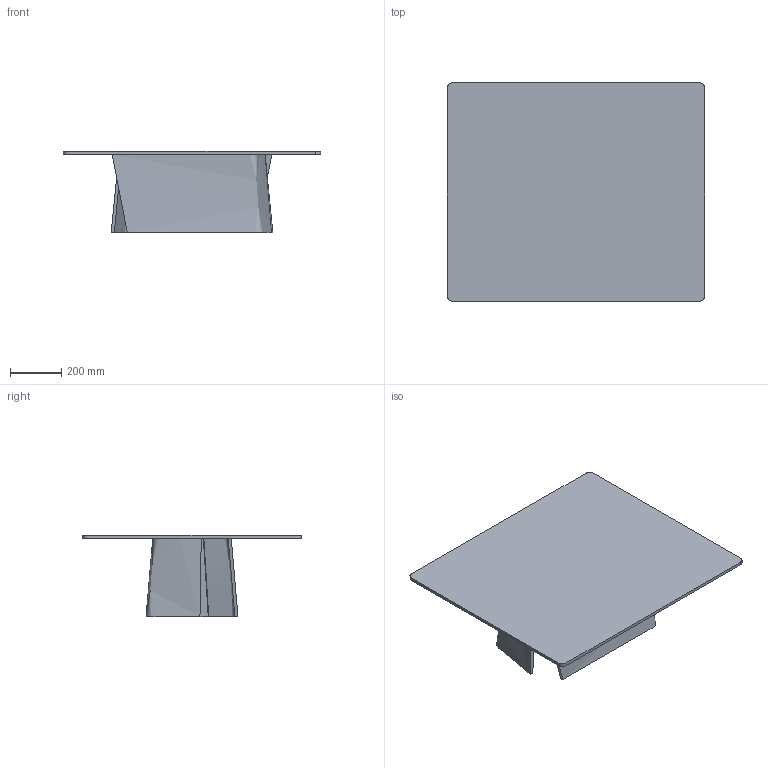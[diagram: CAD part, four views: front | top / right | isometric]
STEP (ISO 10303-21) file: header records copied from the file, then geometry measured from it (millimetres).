
FILE_DESCRIPTION(/* description */ (''),/* implementation_level */ '2;1');
FILE_NAME(/* name */ '500.301 - Accordo Tavolino rettangolare H32 100x85',/* time_stamp */ '2010-11-03T16:24:51+01:00',/* author */ (''),/* organization */ (''),/* preprocessor_version */ 'ST-DEVELOPER v10',/* originating_system */ '',/* authorisation */ '');
FILE_SCHEMA (('CONFIG_CONTROL_DESIGN'));
Length unit declared in the file: centimetre
Products named in the file (1): 1
Bounding box: 1000 x 850 x 317 mm (x, y, z)
Volume: 15673822.4 mm3; surface area: 2708945.6 mm2
Topology: 3 solids, 3 shells, 18 faces, 52 edges, 40 vertices
Faces by surface type: bspline 12, plane 6
Entity records: 1000 total; most frequent: CARTESIAN_POINT 584, ORIENTED_EDGE 104, EDGE_CURVE 52, B_SPLINE_CURVE_WITH_KNOTS 46, VERTEX_POINT 40, ADVANCED_FACE 18, FACE_OUTER_BOUND 18, EDGE_LOOP 18
